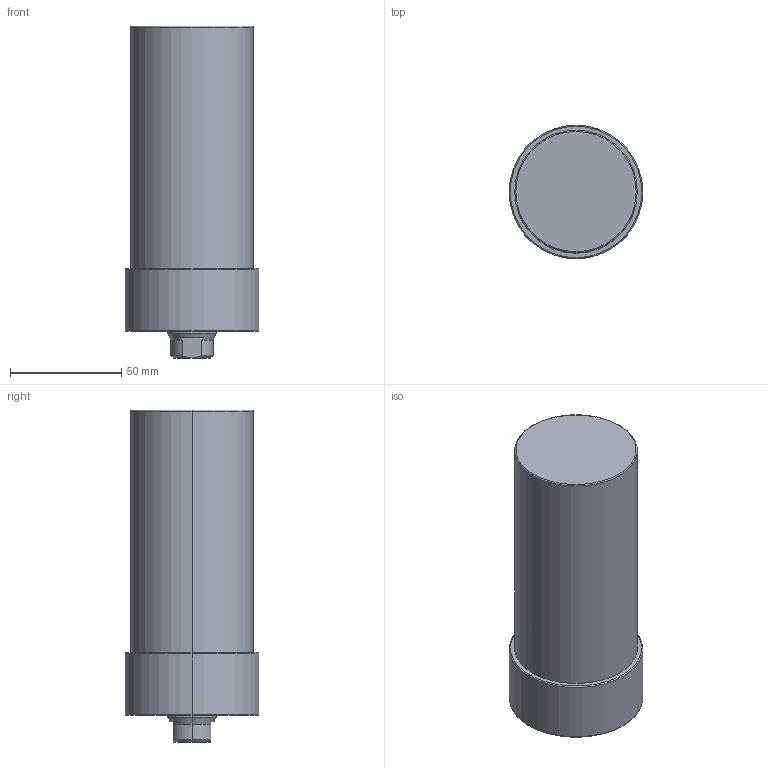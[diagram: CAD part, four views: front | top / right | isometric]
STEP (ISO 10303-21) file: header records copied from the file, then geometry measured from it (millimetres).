
FILE_DESCRIPTION (( 'STEP AP203' ), '1' );
FILE_NAME ('CLLU055-CA-080.STEP', '2017-05-15T08:14:05', ( '' ), ( '' ), 'SwSTEP 2.0', 'SolidWorks 2015', '' );
FILE_SCHEMA (( 'CONFIG_CONTROL_DESIGN' ));
Length unit declared in the file: millimetre
Products named in the file (1): CLLU055-CA-080
Bounding box: 60 x 60 x 149 mm (x, y, z)
Volume: 338466.4 mm3; surface area: 32156.5 mm2
Topology: 1 solids, 1 shells, 64 faces, 143 edges, 80 vertices
Faces by surface type: cone 25, cylinder 23, plane 10, torus 6
Entity records: 1805 total; most frequent: DIRECTION 330, CARTESIAN_POINT 318, ORIENTED_EDGE 266, AXIS2_PLACEMENT_3D 140, EDGE_CURVE 133, VERTEX_POINT 80, CIRCLE 75, EDGE_LOOP 73
